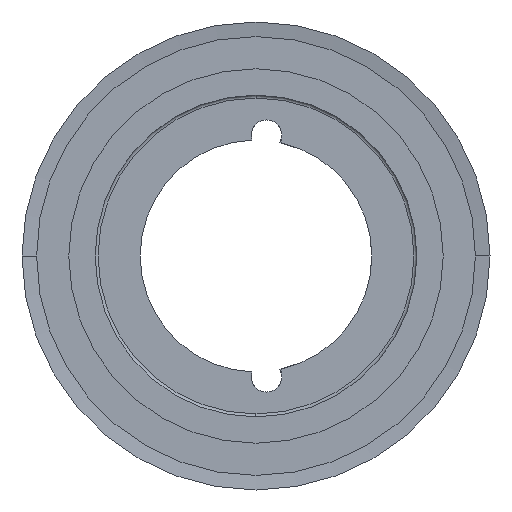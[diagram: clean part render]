
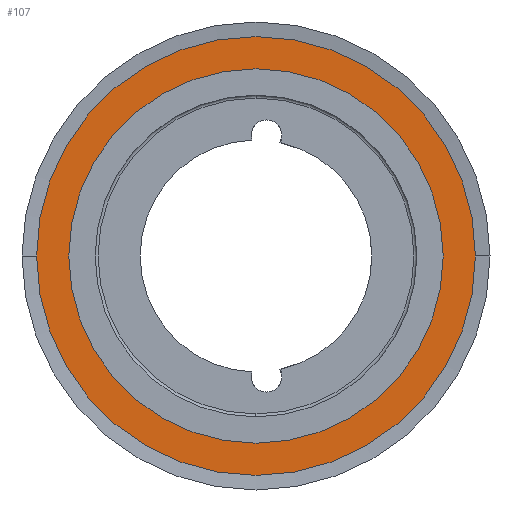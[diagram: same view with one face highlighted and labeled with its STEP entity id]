
A CAD part, left-side view. The second image highlights one B-rep face of the part: STEP entity #107.
In plain terms, the highlighted planar face has unit normal (-1, 0, 0).
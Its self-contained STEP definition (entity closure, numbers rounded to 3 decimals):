
#107 = ADVANCED_FACE( '', ( #393, #394 ), #395, .T. );
#393 = FACE_BOUND( '', #901, .T. );
#394 = FACE_OUTER_BOUND( '', #902, .T. );
#395 = PLANE( '', #903 );
#901 = EDGE_LOOP( '', ( #1982, #1983 ) );
#902 = EDGE_LOOP( '', ( #1984, #1985 ) );
#903 = AXIS2_PLACEMENT_3D( '', #1986, #1987, #1988 );
#1982 = ORIENTED_EDGE( '', *, *, #3531, .F. );
#1983 = ORIENTED_EDGE( '', *, *, #4032, .F. );
#1984 = ORIENTED_EDGE( '', *, *, #4033, .T. );
#1985 = ORIENTED_EDGE( '', *, *, #3557, .T. );
#1986 = CARTESIAN_POINT( '', ( 0.15, 69.5, 0. ) );
#1987 = DIRECTION( '', ( -1., 0., 0. ) );
#1988 = DIRECTION( '', ( 0., 1., 0. ) );
#3531 = EDGE_CURVE( '', #4249, #4252, #4253, .T. );
#3557 = EDGE_CURVE( '', #4302, #4299, #4303, .T. );
#4032 = EDGE_CURVE( '', #4252, #4249, #5226, .T. );
#4033 = EDGE_CURVE( '', #4299, #4302, #5227, .T. );
#4249 = VERTEX_POINT( '', #5445 );
#4252 = VERTEX_POINT( '', #5449 );
#4253 = CIRCLE( '', #5450, 64. );
#4299 = VERTEX_POINT( '', #5503 );
#4302 = VERTEX_POINT( '', #5507 );
#4303 = CIRCLE( '', #5508, 75. );
#5226 = CIRCLE( '', #6735, 64. );
#5227 = CIRCLE( '', #6736, 75. );
#5445 = CARTESIAN_POINT( '', ( 0.15, 64., 0. ) );
#5449 = CARTESIAN_POINT( '', ( 0.15, -64., 0. ) );
#5450 = AXIS2_PLACEMENT_3D( '', #7159, #7160, #7161 );
#5503 = CARTESIAN_POINT( '', ( 0.15, 75., 0. ) );
#5507 = CARTESIAN_POINT( '', ( 0.15, -75., 0. ) );
#5508 = AXIS2_PLACEMENT_3D( '', #7221, #7222, #7223 );
#6735 = AXIS2_PLACEMENT_3D( '', #8298, #8299, #8300 );
#6736 = AXIS2_PLACEMENT_3D( '', #8301, #8302, #8303 );
#7159 = CARTESIAN_POINT( '', ( 0.15, 0., 0. ) );
#7160 = DIRECTION( '', ( -1., 0., 0. ) );
#7161 = DIRECTION( '', ( 0., 1., 0. ) );
#7221 = CARTESIAN_POINT( '', ( 0.15, 0., 0. ) );
#7222 = DIRECTION( '', ( -1., 0., 0. ) );
#7223 = DIRECTION( '', ( 0., 1., 0. ) );
#8298 = CARTESIAN_POINT( '', ( 0.15, 0., 0. ) );
#8299 = DIRECTION( '', ( -1., 0., 0. ) );
#8300 = DIRECTION( '', ( 0., 1., 0. ) );
#8301 = CARTESIAN_POINT( '', ( 0.15, 0., 0. ) );
#8302 = DIRECTION( '', ( -1., 0., 0. ) );
#8303 = DIRECTION( '', ( 0., 1., 0. ) );
